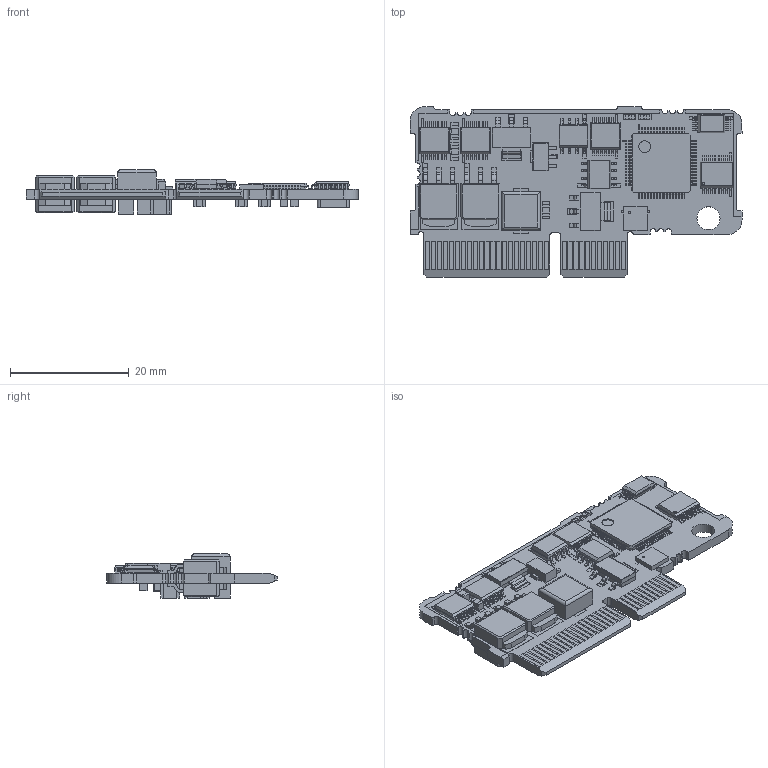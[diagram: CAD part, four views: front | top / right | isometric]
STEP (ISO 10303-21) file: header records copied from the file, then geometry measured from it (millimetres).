
FILE_DESCRIPTION (( 'STEP AP214' ), '1' );
FILE_NAME ('P028_004_iPOS360x_VX.STEP', '2020-09-29T07:04:03', ( 'a_neacsu' ), ( '' ), 'SwSTEP 2.0', 'SolidWorks 2017', '' );
FILE_SCHEMA (( 'AUTOMOTIVE_DESIGN' ));
Length unit declared in the file: millimetre
Products named in the file (2): P028_004_iPOS360x_VX
Bounding box: 56 x 28.8 x 7.47 mm (x, y, z)
Volume: 3363.9 mm3; surface area: 5560 mm2
Topology: 44 solids, 44 shells, 3591 faces, 9698 edges, 6288 vertices
Faces by surface type: plane 2799, cylinder 764, sphere 28
Entity records: 150965 total; most frequent: CARTESIAN_POINT 19575, ORIENTED_EDGE 19364, DIRECTION 18412, EDGE_CURVE 9682, VECTOR 8130, LINE 8130, VERTEX_POINT 6288, AXIS2_PLACEMENT_3D 5141
